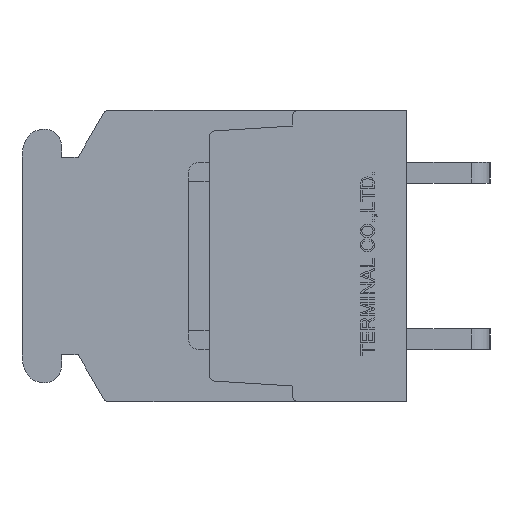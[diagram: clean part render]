
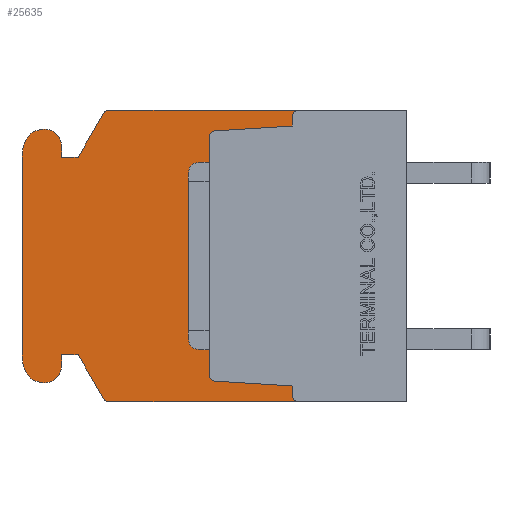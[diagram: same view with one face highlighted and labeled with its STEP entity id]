
A CAD part, left-side view. The second image highlights one B-rep face of the part: STEP entity #25635.
In plain terms, the highlighted planar face has unit normal (-1, 0, 0).
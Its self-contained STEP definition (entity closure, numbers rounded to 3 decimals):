
#478=CIRCLE('',#26043,0.3);
#479=CIRCLE('',#26047,0.3);
#480=CIRCLE('',#26049,0.3);
#481=CIRCLE('',#26053,0.3);
#990=CIRCLE('',#27544,0.3);
#991=CIRCLE('',#27545,0.8);
#992=CIRCLE('',#27546,1.);
#993=CIRCLE('',#27547,2.);
#994=CIRCLE('',#27548,2.);
#995=CIRCLE('',#27549,1.);
#996=CIRCLE('',#27550,0.8);
#997=CIRCLE('',#27551,0.3);
#1384=VERTEX_POINT('',#33428);
#1385=VERTEX_POINT('',#33429);
#1738=VERTEX_POINT('',#34950);
#1739=VERTEX_POINT('',#34954);
#1740=VERTEX_POINT('',#34958);
#1741=VERTEX_POINT('',#34962);
#1742=VERTEX_POINT('',#34966);
#1743=VERTEX_POINT('',#34967);
#1744=VERTEX_POINT('',#34972);
#1745=VERTEX_POINT('',#34976);
#3169=VERTEX_POINT('',#39328);
#3204=VERTEX_POINT('',#39435);
#3570=VERTEX_POINT('',#40584);
#3571=VERTEX_POINT('',#40586);
#3572=VERTEX_POINT('',#40588);
#3573=VERTEX_POINT('',#40590);
#3574=VERTEX_POINT('',#40592);
#3575=VERTEX_POINT('',#40594);
#3576=VERTEX_POINT('',#40596);
#3577=VERTEX_POINT('',#40598);
#3578=VERTEX_POINT('',#40600);
#3579=VERTEX_POINT('',#40602);
#3580=VERTEX_POINT('',#40604);
#3581=VERTEX_POINT('',#40606);
#3582=VERTEX_POINT('',#40608);
#3583=VERTEX_POINT('',#40610);
#3584=VERTEX_POINT('',#40612);
#3585=VERTEX_POINT('',#40614);
#3976=VECTOR('',#27797,1.);
#4385=VECTOR('',#28353,1.);
#4387=VECTOR('',#28356,1.);
#4392=VECTOR('',#28370,1.);
#4394=VECTOR('',#28373,1.);
#5872=VECTOR('',#31706,1.);
#5909=VECTOR('',#31801,1.);
#6365=VECTOR('',#32640,1.);
#6366=VECTOR('',#32641,1.);
#6367=VECTOR('',#32642,1.);
#6368=VECTOR('',#32645,1.);
#6369=VECTOR('',#32650,1.);
#6370=VECTOR('',#32655,1.);
#6371=VECTOR('',#32658,1.);
#6372=VECTOR('',#32659,1.);
#6373=VECTOR('',#32660,1.);
#6820=LINE('',#33427,#3976);
#7229=LINE('',#34953,#4385);
#7231=LINE('',#34957,#4387);
#7236=LINE('',#34971,#4392);
#7238=LINE('',#34975,#4394);
#8716=LINE('',#39329,#5872);
#8753=LINE('',#39434,#5909);
#9209=LINE('',#40585,#6365);
#9210=LINE('',#40587,#6366);
#9211=LINE('',#40589,#6367);
#9212=LINE('',#40593,#6368);
#9213=LINE('',#40599,#6369);
#9214=LINE('',#40605,#6370);
#9215=LINE('',#40609,#6371);
#9216=LINE('',#40611,#6372);
#9217=LINE('',#40613,#6373);
#9664=EDGE_CURVE('',#1384,#1385,#6820,.T.);
#10182=EDGE_CURVE('',#1738,#1384,#478,.T.);
#10184=EDGE_CURVE('',#1739,#1738,#7229,.T.);
#10186=EDGE_CURVE('',#1740,#1739,#7231,.T.);
#10188=EDGE_CURVE('',#1741,#1740,#479,.T.);
#10190=EDGE_CURVE('',#1742,#1743,#480,.T.);
#10193=EDGE_CURVE('',#1744,#1742,#7236,.T.);
#10195=EDGE_CURVE('',#1745,#1744,#7238,.T.);
#10197=EDGE_CURVE('',#1385,#1745,#481,.T.);
#12268=EDGE_CURVE('',#3169,#1743,#8716,.T.);
#12321=EDGE_CURVE('',#1741,#3204,#8753,.T.);
#12951=EDGE_CURVE('',#3570,#3169,#990,.T.);
#12952=EDGE_CURVE('',#3571,#3570,#9209,.T.);
#12953=EDGE_CURVE('',#3572,#3571,#9210,.T.);
#12954=EDGE_CURVE('',#3573,#3572,#9211,.T.);
#12955=EDGE_CURVE('',#3574,#3573,#991,.T.);
#12956=EDGE_CURVE('',#3575,#3574,#9212,.T.);
#12957=EDGE_CURVE('',#3576,#3575,#992,.T.);
#12958=EDGE_CURVE('',#3577,#3576,#993,.T.);
#12959=EDGE_CURVE('',#3578,#3577,#9213,.T.);
#12960=EDGE_CURVE('',#3579,#3578,#994,.T.);
#12961=EDGE_CURVE('',#3580,#3579,#995,.T.);
#12962=EDGE_CURVE('',#3581,#3580,#9214,.T.);
#12963=EDGE_CURVE('',#3582,#3581,#996,.T.);
#12964=EDGE_CURVE('',#3583,#3582,#9215,.T.);
#12965=EDGE_CURVE('',#3584,#3583,#9216,.T.);
#12966=EDGE_CURVE('',#3585,#3584,#9217,.T.);
#12967=EDGE_CURVE('',#3204,#3585,#997,.T.);
#20093=ORIENTED_EDGE('',*,*,#10190,.T.);
#20094=ORIENTED_EDGE('',*,*,#12268,.F.);
#20095=ORIENTED_EDGE('',*,*,#12951,.F.);
#20096=ORIENTED_EDGE('',*,*,#12952,.F.);
#20097=ORIENTED_EDGE('',*,*,#12953,.F.);
#20098=ORIENTED_EDGE('',*,*,#12954,.F.);
#20099=ORIENTED_EDGE('',*,*,#12955,.F.);
#20100=ORIENTED_EDGE('',*,*,#12956,.F.);
#20101=ORIENTED_EDGE('',*,*,#12957,.F.);
#20102=ORIENTED_EDGE('',*,*,#12958,.F.);
#20103=ORIENTED_EDGE('',*,*,#12959,.F.);
#20104=ORIENTED_EDGE('',*,*,#12960,.F.);
#20105=ORIENTED_EDGE('',*,*,#12961,.F.);
#20106=ORIENTED_EDGE('',*,*,#12962,.F.);
#20107=ORIENTED_EDGE('',*,*,#12963,.F.);
#20108=ORIENTED_EDGE('',*,*,#12964,.F.);
#20109=ORIENTED_EDGE('',*,*,#12965,.F.);
#20110=ORIENTED_EDGE('',*,*,#12966,.F.);
#20111=ORIENTED_EDGE('',*,*,#12967,.F.);
#20112=ORIENTED_EDGE('',*,*,#12321,.F.);
#20113=ORIENTED_EDGE('',*,*,#10188,.T.);
#20114=ORIENTED_EDGE('',*,*,#10186,.T.);
#20115=ORIENTED_EDGE('',*,*,#10184,.T.);
#20116=ORIENTED_EDGE('',*,*,#10182,.T.);
#20117=ORIENTED_EDGE('',*,*,#9664,.T.);
#20118=ORIENTED_EDGE('',*,*,#10197,.T.);
#20119=ORIENTED_EDGE('',*,*,#10195,.T.);
#20120=ORIENTED_EDGE('',*,*,#10193,.T.);
#22620=EDGE_LOOP('',(#20093,#20094,#20095,#20096,#20097,#20098,#20099,#20100,
#20101,#20102,#20103,#20104,#20105,#20106,#20107,#20108,#20109,#20110,#20111,
#20112,#20113,#20114,#20115,#20116,#20117,#20118,#20119,#20120));
#24186=FACE_BOUND('',#22620,.T.);
#25635=ADVANCED_FACE('',(#24186),#43126,.F.);
#26043=AXIS2_PLACEMENT_3D('',#34949,#28349,#28350);
#26047=AXIS2_PLACEMENT_3D('',#34961,#28360,#28361);
#26049=AXIS2_PLACEMENT_3D('',#34965,#28365,#28366);
#26053=AXIS2_PLACEMENT_3D('',#34979,#28377,#28378);
#27543=AXIS2_PLACEMENT_3D('',#40582,#32637,$);
#27544=AXIS2_PLACEMENT_3D('',#40583,#32638,#32639);
#27545=AXIS2_PLACEMENT_3D('',#40591,#32643,#32644);
#27546=AXIS2_PLACEMENT_3D('',#40595,#32646,#32647);
#27547=AXIS2_PLACEMENT_3D('',#40597,#32648,#32649);
#27548=AXIS2_PLACEMENT_3D('',#40601,#32651,#32652);
#27549=AXIS2_PLACEMENT_3D('',#40603,#32653,#32654);
#27550=AXIS2_PLACEMENT_3D('',#40607,#32656,#32657);
#27551=AXIS2_PLACEMENT_3D('',#40615,#32661,#32662);
#27797=DIRECTION('',(0.,0.,1.));
#28349=DIRECTION('',(1.,0.,0.));
#28350=DIRECTION('',(0.,0.,-0.3));
#28353=DIRECTION('',(0.,0.998,0.062));
#28356=DIRECTION('',(0.,0.,1.));
#28360=DIRECTION('',(1.,0.,0.));
#28361=DIRECTION('',(0.,0.,-0.3));
#28365=DIRECTION('',(1.,0.,0.));
#28366=DIRECTION('',(0.,0.,-0.3));
#28370=DIRECTION('',(0.,0.,1.));
#28373=DIRECTION('',(0.,-0.998,0.062));
#28377=DIRECTION('',(1.,0.,0.));
#28378=DIRECTION('',(0.,0.,-0.3));
#31706=DIRECTION('',(0.,-1.,0.));
#31801=DIRECTION('',(0.,1.,0.));
#32637=DIRECTION('',(1.,0.,0.));
#32638=DIRECTION('',(1.,0.,0.));
#32639=DIRECTION('',(0.,0.,-0.3));
#32640=DIRECTION('',(0.,-0.5,0.866));
#32641=DIRECTION('',(0.,-1.,0.));
#32642=DIRECTION('',(0.,0.,-1.));
#32643=DIRECTION('',(1.,0.,0.));
#32644=DIRECTION('',(0.,0.,-0.8));
#32645=DIRECTION('',(0.,-1.,0.));
#32646=DIRECTION('',(1.,0.,0.));
#32647=DIRECTION('',(0.,0.,-1.));
#32648=DIRECTION('',(1.,0.,0.));
#32649=DIRECTION('',(0.,0.,-2.));
#32650=DIRECTION('',(0.,0.,1.));
#32651=DIRECTION('',(1.,0.,0.));
#32652=DIRECTION('',(0.,0.,-2.));
#32653=DIRECTION('',(1.,0.,0.));
#32654=DIRECTION('',(0.,0.,-1.));
#32655=DIRECTION('',(0.,1.,0.));
#32656=DIRECTION('',(1.,0.,0.));
#32657=DIRECTION('',(0.,0.,-0.8));
#32658=DIRECTION('',(0.,0.,-1.));
#32659=DIRECTION('',(0.,1.,0.));
#32660=DIRECTION('',(0.,0.5,0.866));
#32661=DIRECTION('',(1.,0.,0.));
#32662=DIRECTION('',(0.,0.,-0.3));
#33427=CARTESIAN_POINT('',(8.15,9.5,0.));
#33428=CARTESIAN_POINT('',(8.15,9.5,-5.718));
#33429=CARTESIAN_POINT('',(8.15,9.5,5.718));
#34949=CARTESIAN_POINT('',(8.15,9.2,-5.718));
#34950=CARTESIAN_POINT('',(8.15,9.219,-6.018));
#34953=CARTESIAN_POINT('',(8.15,8.522,-6.061));
#34954=CARTESIAN_POINT('',(8.15,5.5,-6.25));
#34957=CARTESIAN_POINT('',(8.15,5.5,-3.237));
#34958=CARTESIAN_POINT('',(8.15,5.5,-6.7));
#34961=CARTESIAN_POINT('',(8.15,5.2,-6.7));
#34962=CARTESIAN_POINT('',(8.15,5.2,-7.));
#34965=CARTESIAN_POINT('',(8.15,5.2,6.7));
#34966=CARTESIAN_POINT('',(8.15,5.5,6.7));
#34967=CARTESIAN_POINT('',(8.15,5.2,7.));
#34971=CARTESIAN_POINT('',(8.15,5.5,3.238));
#34972=CARTESIAN_POINT('',(8.15,5.5,6.25));
#34975=CARTESIAN_POINT('',(8.15,8.522,6.061));
#34976=CARTESIAN_POINT('',(8.15,9.219,6.018));
#34979=CARTESIAN_POINT('',(8.15,9.2,5.718));
#39328=CARTESIAN_POINT('',(8.15,14.327,7.));
#39329=CARTESIAN_POINT('',(8.15,14.327,7.));
#39434=CARTESIAN_POINT('',(8.15,0.,-7.));
#39435=CARTESIAN_POINT('',(8.15,14.327,-7.));
#40582=CARTESIAN_POINT('',(8.15,9.311,0.));
#40583=CARTESIAN_POINT('',(8.15,14.327,6.7));
#40584=CARTESIAN_POINT('',(8.15,14.587,6.85));
#40585=CARTESIAN_POINT('',(8.15,15.8,4.75));
#40586=CARTESIAN_POINT('',(8.15,15.8,4.75));
#40587=CARTESIAN_POINT('',(8.15,16.6,4.75));
#40588=CARTESIAN_POINT('',(8.15,16.6,4.75));
#40589=CARTESIAN_POINT('',(8.15,16.6,5.3));
#40590=CARTESIAN_POINT('',(8.15,16.6,5.3));
#40591=CARTESIAN_POINT('',(8.15,17.4,5.3));
#40592=CARTESIAN_POINT('',(8.15,17.4,6.1));
#40593=CARTESIAN_POINT('',(8.15,17.437,6.1));
#40594=CARTESIAN_POINT('',(8.15,17.437,6.1));
#40595=CARTESIAN_POINT('',(8.15,17.437,5.1));
#40596=CARTESIAN_POINT('',(8.15,18.373,5.45));
#40597=CARTESIAN_POINT('',(8.15,16.5,4.75));
#40598=CARTESIAN_POINT('',(8.15,18.5,4.75));
#40599=CARTESIAN_POINT('',(8.15,18.5,-4.75));
#40600=CARTESIAN_POINT('',(8.15,18.5,-4.75));
#40601=CARTESIAN_POINT('',(8.15,16.5,-4.75));
#40602=CARTESIAN_POINT('',(8.15,18.373,-5.45));
#40603=CARTESIAN_POINT('',(8.15,17.437,-5.1));
#40604=CARTESIAN_POINT('',(8.15,17.437,-6.1));
#40605=CARTESIAN_POINT('',(8.15,17.4,-6.1));
#40606=CARTESIAN_POINT('',(8.15,17.4,-6.1));
#40607=CARTESIAN_POINT('',(8.15,17.4,-5.3));
#40608=CARTESIAN_POINT('',(8.15,16.6,-5.3));
#40609=CARTESIAN_POINT('',(8.15,16.6,-4.75));
#40610=CARTESIAN_POINT('',(8.15,16.6,-4.75));
#40611=CARTESIAN_POINT('',(8.15,15.8,-4.75));
#40612=CARTESIAN_POINT('',(8.15,15.8,-4.75));
#40613=CARTESIAN_POINT('',(8.15,14.587,-6.85));
#40614=CARTESIAN_POINT('',(8.15,14.587,-6.85));
#40615=CARTESIAN_POINT('',(8.15,14.327,-6.7));
#43126=PLANE('',#27543);
